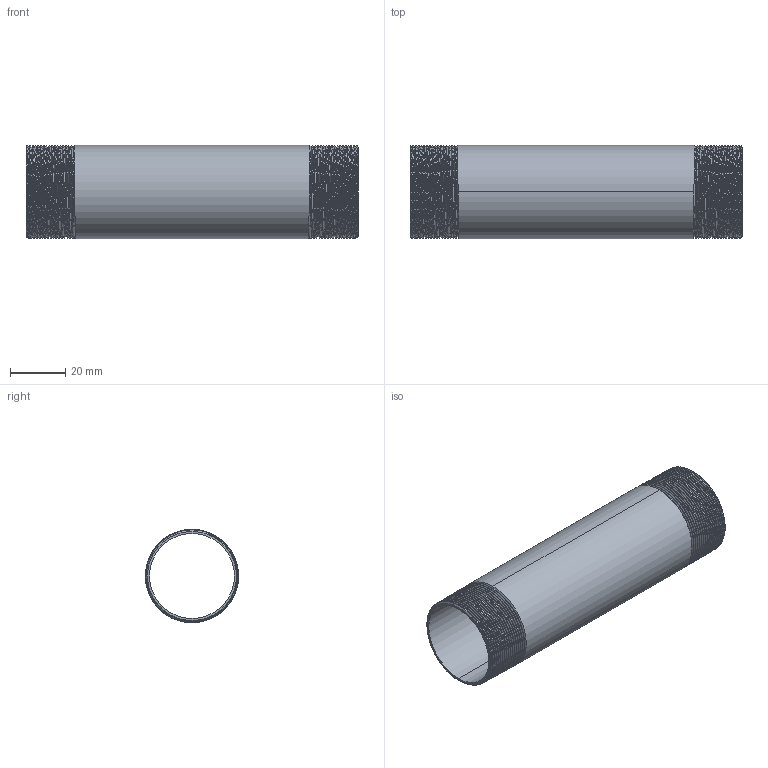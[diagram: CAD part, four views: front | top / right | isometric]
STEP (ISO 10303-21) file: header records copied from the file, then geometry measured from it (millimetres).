
FILE_DESCRIPTION (( 'STEP AP203' ), '1' );
FILE_NAME ('3D_R210_1x120_17185850.STEP', '2024-08-16T13:48:29', ( '' ), ( '' ), 'SwSTEP 2.0', 'SolidWorks 2024', '' );
FILE_SCHEMA (( 'CONFIG_CONTROL_DESIGN' ));
Length unit declared in the file: millimetre
Products named in the file (1): 3D_R210_1x120_17185850
Bounding box: 120 x 33.69 x 33.7 mm (x, y, z)
Volume: 17043.6 mm3; surface area: 26278.5 mm2
Topology: 1 solids, 1 shells, 88 faces, 250 edges, 164 vertices
Faces by surface type: cone 74, bspline 6, cylinder 4, plane 4
Entity records: 15477 total; most frequent: CARTESIAN_POINT 13431, ORIENTED_EDGE 500, DIRECTION 278, EDGE_CURVE 250, VERTEX_POINT 164, B_SPLINE_CURVE_WITH_KNOTS 144, AXIS2_PLACEMENT_3D 97, EDGE_LOOP 90
